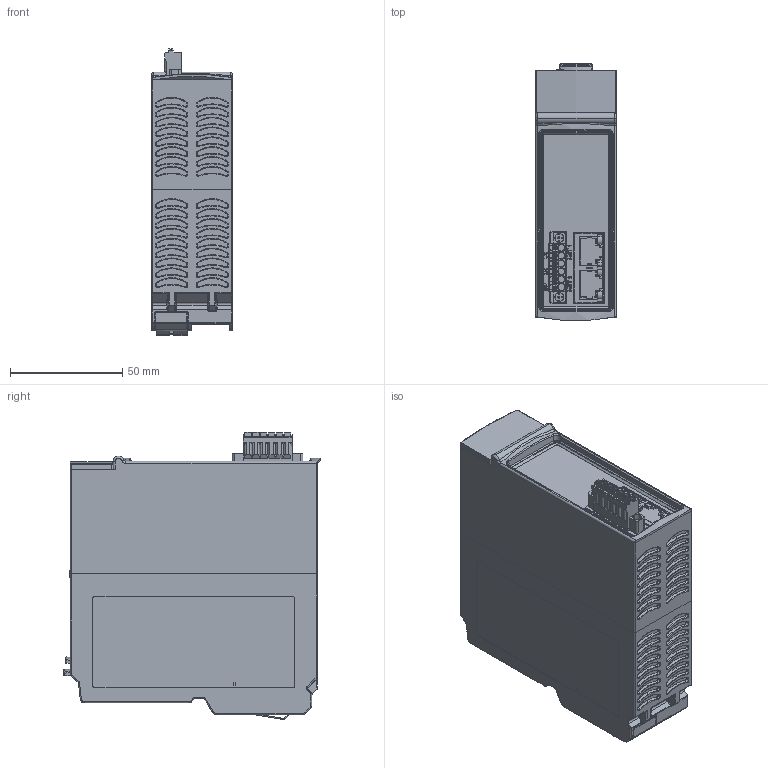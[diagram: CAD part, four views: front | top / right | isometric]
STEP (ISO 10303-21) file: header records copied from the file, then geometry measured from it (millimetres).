
FILE_DESCRIPTION (( 'STEP AP214' ), '1' );
FILE_NAME ('NX5104.STEP', '2022-10-25T20:41:33', ( '' ), ( '' ), 'SwSTEP 2.0', 'SolidWorks 2021', '' );
FILE_SCHEMA (( 'AUTOMOTIVE_DESIGN' ));
Length unit declared in the file: millimetre
Products named in the file (1): NX5104
Bounding box: 36 x 114.46 x 127.87 mm (x, y, z)
Volume: 409288.7 mm3; surface area: 71110.9 mm2
Topology: 12 solids, 14 shells, 2883 faces, 7440 edges, 4684 vertices
Faces by surface type: plane 1180, bspline 893, cylinder 561, cone 231, torus 14, sphere 4
Entity records: 134317 total; most frequent: CARTESIAN_POINT 38462, ORIENTED_EDGE 14860, DIRECTION 11342, EDGE_CURVE 7430, VERTEX_POINT 4684, LINE 3838, VECTOR 3838, AXIS2_PLACEMENT_3D 3752
